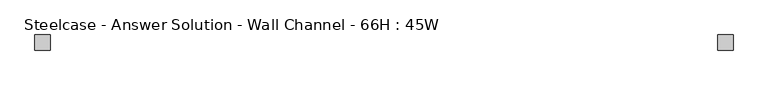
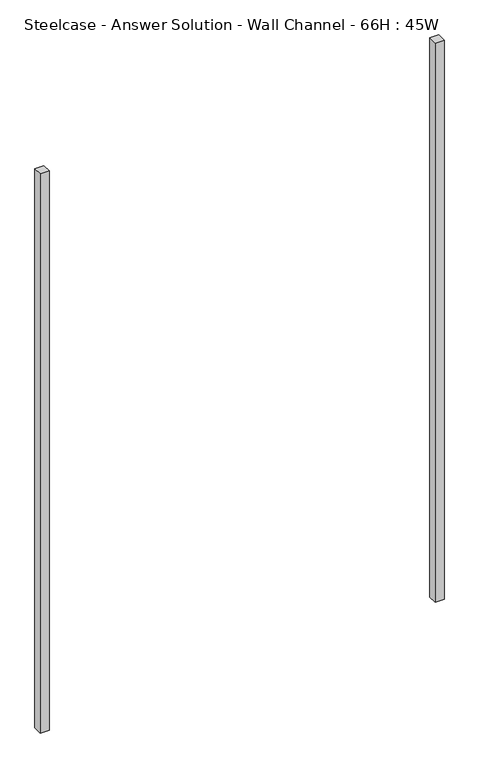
"""IFC4 building model written with IfcOpenShell, lengths in millimetres: furniture geometry, Steelcase - Answer Solution - Wall Channel - 66H : 45W."""

from ifc_helpers import new_model, si_unit, origin, origin_with_axes, place, context, project, spatial, polyline, outline, extrude, source, transform, mapped, element, save


def steelcase_answer_solution_wall_channel_66h_45w_9edf4ceb(model_context):
    return source(origin(), model_context, "Body", "SweptSolid", [
        extrude(outline(polyline([(1117.6, 0.0), (1143.0, 0.0), (1143.0, -25.4), (1117.6, -25.4), (1117.6, 0.0)])), origin_with_axes(), (0.0, 0.0, 1.0), 1673.225),
        extrude(outline(polyline([(25.4, 0.0), (25.4, -25.4), (0.0, -25.4), (0.0, 0.0), (25.4, 0.0)])), origin_with_axes(), (0.0, 0.0, 1.0), 1673.225),
    ])


if __name__ == "__main__":
    model = new_model("IFC4")
    model_context = context("Model", 3, world=origin())
    ifc_project = project(units=[si_unit("LENGTHUNIT", "METRE", prefix="MILLI")], contexts=[model_context])
    site = spatial("IfcSite", under=ifc_project)
    building = spatial("IfcBuilding", under=site)
    placement = place(None, origin())
    steelcase_answer_solution_wall_channel_66h_45w_shape = steelcase_answer_solution_wall_channel_66h_45w_9edf4ceb(model_context)
    element("IfcFurniture", 1, ObjectType="Steelcase - Answer Solution - Wall Channel - 66H : 45W", at=placement, inside=building, context=model_context, shape_type="MappedRepresentation", body=[
        mapped(steelcase_answer_solution_wall_channel_66h_45w_shape, transform((0.0, 0.0, 0.0), x_axis=(1.0, 0.0, 0.0), y_axis=(0.0, 1.0, 0.0), z_axis=(0.0, 0.0, 1.0))),
    ])
    save(model, "model.ifc")
